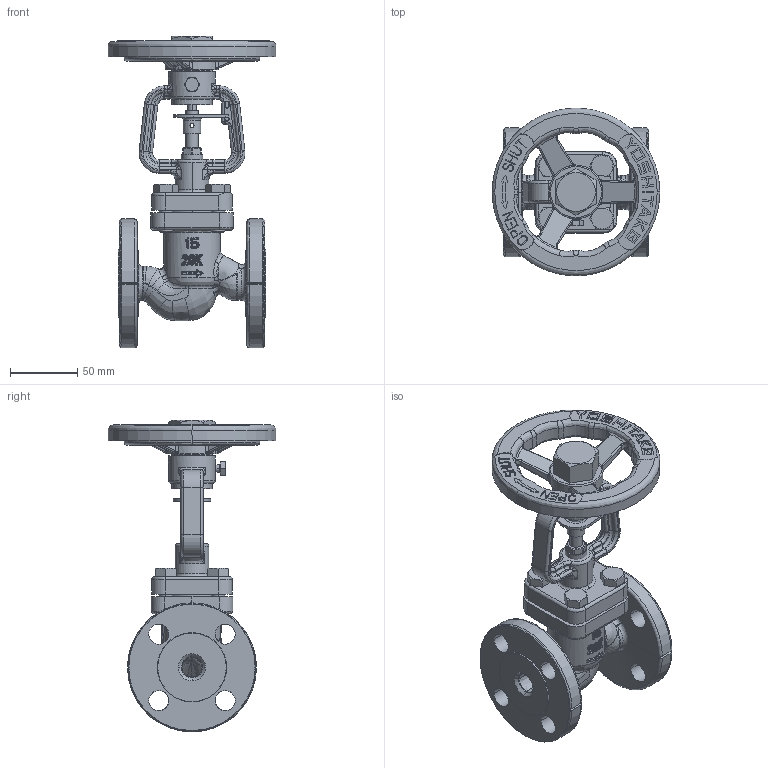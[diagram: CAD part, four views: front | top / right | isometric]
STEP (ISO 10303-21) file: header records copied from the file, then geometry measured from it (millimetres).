
FILE_DESCRIPTION( (''), '2;1');
FILE_NAME ('PC1027.9568.BSV-20F 15A_23465.stp','2025-07-28T09:24:16',(''),(''),'spGate 19.8.4 (****-****-****-****)','','');
FILE_SCHEMA (('AUTOMOTIVE_DESIGN'));
Length unit declared in the file: millimetre
Products named in the file (12): Assembly; ボンネット15-20A; スリーブワッシャー15-32A; スリーブ15-20A; 弁棒15-20A; ストッパー15-20A; ハンドル15-32A; グランドナット15-20A; CP_''_JIS B 1180 呼び径六角ボ''_(1)_17166; ハンドルナット15-32A; CP_''_JIS B 1180 呼び径六角ボルト''_17166; 本体20K 15A
Assembly tree (15 placements, depth 2):
  Assembly
    ボンネット15-20A
    スリーブワッシャー15-32A  x2
    スリーブ15-20A
    弁棒15-20A
    ストッパー15-20A
    ハンドル15-32A
    グランドナット15-20A
    CP_''_JIS B 1180 呼び径六角ボ''_(1)_17166
    ハンドルナット15-32A
    CP_''_JIS B 1180 呼び径六角ボルト''_17166  x4
    本体20K 15A
Bounding box: 125 x 125 x 232 mm (x, y, z)
Volume: 467197.1 mm3; surface area: 153948.5 mm2
Topology: 15 solids, 15 shells, 1819 faces, 4442 edges, 2667 vertices
Faces by surface type: bspline 908, cylinder 471, plane 427, sphere 13
Entity records: 114378 total; most frequent: CARTESIAN_POINT 48189, ORIENTED_EDGE 8416, COLOUR_RGB 5946, PRESENTATION_STYLE_ASSIGNMENT 5946, STYLED_ITEM 5946, DIRECTION 4703, EDGE_CURVE 4208, DRAUGHTING_PRE_DEFINED_CURVE_FONT 4208
